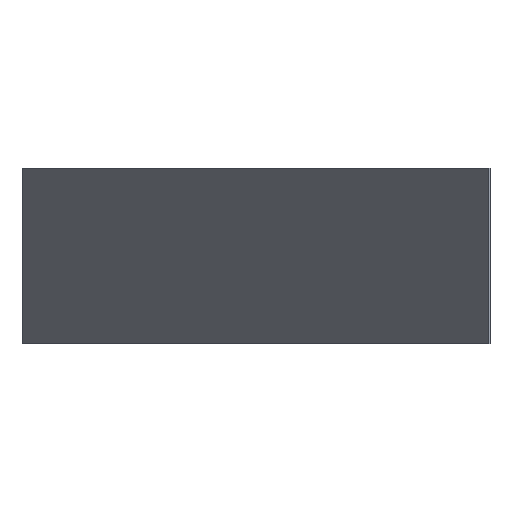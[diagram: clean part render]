
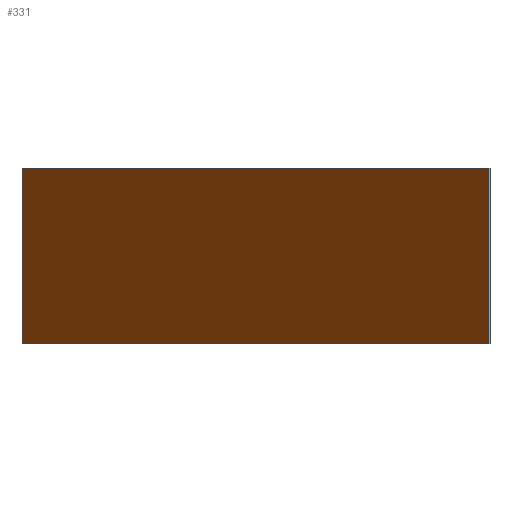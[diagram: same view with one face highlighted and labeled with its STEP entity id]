
A CAD part, front view. The second image highlights one B-rep face of the part: STEP entity #331.
In plain terms, the highlighted planar face has unit normal (-0.831, -0.557, 0).
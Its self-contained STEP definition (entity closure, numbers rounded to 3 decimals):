
#22 = VERTEX_POINT('',#23);
#23 = CARTESIAN_POINT('',(-401.603,-310.583,2.5));
#32 = PLANE('',#33);
#33 = AXIS2_PLACEMENT_3D('',#34,#35,#36);
#34 = CARTESIAN_POINT('',(-401.603,-310.583,2.5));
#35 = DIRECTION('',(0.,0.,1.));
#36 = DIRECTION('',(-0.557,0.831,0.));
#44 = PLANE('',#45);
#45 = AXIS2_PLACEMENT_3D('',#46,#47,#48);
#46 = CARTESIAN_POINT('',(-401.603,-310.583,23.5));
#47 = DIRECTION('',(-0.557,0.831,0.));
#48 = DIRECTION('',(0.,0.,-1.));
#85 = VERTEX_POINT('',#86);
#86 = CARTESIAN_POINT('',(-457.637,-227.035,2.5));
#100 = PLANE('',#101);
#101 = AXIS2_PLACEMENT_3D('',#102,#103,#104);
#102 = CARTESIAN_POINT('',(-457.637,-227.035,2.5));
#103 = DIRECTION('',(0.557,-0.831,0.));
#104 = DIRECTION('',(0.,0.,1.));
#112 = EDGE_CURVE('',#22,#85,#113,.T.);
#113 = SURFACE_CURVE('',#114,(#118,#125),.PCURVE_S1.);
#114 = LINE('',#115,#116);
#115 = CARTESIAN_POINT('',(-401.603,-310.583,2.5));
#116 = VECTOR('',#117,1.);
#117 = DIRECTION('',(-0.557,0.831,0.));
#118 = PCURVE('',#32,#119);
#119 = DEFINITIONAL_REPRESENTATION('',(#120),#124);
#120 = LINE('',#121,#122);
#121 = CARTESIAN_POINT('',(0.,0.));
#122 = VECTOR('',#123,1.);
#123 = DIRECTION('',(1.,0.));
#124 = ( GEOMETRIC_REPRESENTATION_CONTEXT(2) 
PARAMETRIC_REPRESENTATION_CONTEXT() REPRESENTATION_CONTEXT('2D SPACE',''
  ) );
#125 = PCURVE('',#126,#131);
#126 = PLANE('',#127);
#127 = AXIS2_PLACEMENT_3D('',#128,#129,#130);
#128 = CARTESIAN_POINT('',(-429.62,-268.809,13.));
#129 = DIRECTION('',(0.831,0.557,0.));
#130 = DIRECTION('',(-0.557,0.831,0.));
#131 = DEFINITIONAL_REPRESENTATION('',(#132),#136);
#132 = LINE('',#133,#134);
#133 = CARTESIAN_POINT('',(-50.299,-10.5));
#134 = VECTOR('',#135,1.);
#135 = DIRECTION('',(1.,0.));
#136 = ( GEOMETRIC_REPRESENTATION_CONTEXT(2) 
PARAMETRIC_REPRESENTATION_CONTEXT() REPRESENTATION_CONTEXT('2D SPACE',''
  ) );
#166 = VERTEX_POINT('',#167);
#167 = CARTESIAN_POINT('',(-457.637,-227.035,23.5));
#181 = PLANE('',#182);
#182 = AXIS2_PLACEMENT_3D('',#183,#184,#185);
#183 = CARTESIAN_POINT('',(-457.637,-227.035,23.5));
#184 = DIRECTION('',(0.,-0.,-1.));
#185 = DIRECTION('',(0.557,-0.831,0.));
#193 = EDGE_CURVE('',#85,#166,#194,.T.);
#194 = SURFACE_CURVE('',#195,(#199,#206),.PCURVE_S1.);
#195 = LINE('',#196,#197);
#196 = CARTESIAN_POINT('',(-457.637,-227.035,2.5));
#197 = VECTOR('',#198,1.);
#198 = DIRECTION('',(0.,0.,1.));
#199 = PCURVE('',#100,#200);
#200 = DEFINITIONAL_REPRESENTATION('',(#201),#205);
#201 = LINE('',#202,#203);
#202 = CARTESIAN_POINT('',(0.,0.));
#203 = VECTOR('',#204,1.);
#204 = DIRECTION('',(1.,0.));
#205 = ( GEOMETRIC_REPRESENTATION_CONTEXT(2) 
PARAMETRIC_REPRESENTATION_CONTEXT() REPRESENTATION_CONTEXT('2D SPACE',''
  ) );
#206 = PCURVE('',#126,#207);
#207 = DEFINITIONAL_REPRESENTATION('',(#208),#212);
#208 = LINE('',#209,#210);
#209 = CARTESIAN_POINT('',(50.299,-10.5));
#210 = VECTOR('',#211,1.);
#211 = DIRECTION('',(0.,1.));
#212 = ( GEOMETRIC_REPRESENTATION_CONTEXT(2) 
PARAMETRIC_REPRESENTATION_CONTEXT() REPRESENTATION_CONTEXT('2D SPACE',''
  ) );
#242 = VERTEX_POINT('',#243);
#243 = CARTESIAN_POINT('',(-401.603,-310.583,23.5));
#264 = EDGE_CURVE('',#166,#242,#265,.T.);
#265 = SURFACE_CURVE('',#266,(#270,#277),.PCURVE_S1.);
#266 = LINE('',#267,#268);
#267 = CARTESIAN_POINT('',(-457.637,-227.035,23.5));
#268 = VECTOR('',#269,1.);
#269 = DIRECTION('',(0.557,-0.831,0.));
#270 = PCURVE('',#181,#271);
#271 = DEFINITIONAL_REPRESENTATION('',(#272),#276);
#272 = LINE('',#273,#274);
#273 = CARTESIAN_POINT('',(0.,0.));
#274 = VECTOR('',#275,1.);
#275 = DIRECTION('',(1.,0.));
#276 = ( GEOMETRIC_REPRESENTATION_CONTEXT(2) 
PARAMETRIC_REPRESENTATION_CONTEXT() REPRESENTATION_CONTEXT('2D SPACE',''
  ) );
#277 = PCURVE('',#126,#278);
#278 = DEFINITIONAL_REPRESENTATION('',(#279),#283);
#279 = LINE('',#280,#281);
#280 = CARTESIAN_POINT('',(50.299,10.5));
#281 = VECTOR('',#282,1.);
#282 = DIRECTION('',(-1.,0.));
#283 = ( GEOMETRIC_REPRESENTATION_CONTEXT(2) 
PARAMETRIC_REPRESENTATION_CONTEXT() REPRESENTATION_CONTEXT('2D SPACE',''
  ) );
#311 = EDGE_CURVE('',#242,#22,#312,.T.);
#312 = SURFACE_CURVE('',#313,(#317,#324),.PCURVE_S1.);
#313 = LINE('',#314,#315);
#314 = CARTESIAN_POINT('',(-401.603,-310.583,23.5));
#315 = VECTOR('',#316,1.);
#316 = DIRECTION('',(0.,0.,-1.));
#317 = PCURVE('',#44,#318);
#318 = DEFINITIONAL_REPRESENTATION('',(#319),#323);
#319 = LINE('',#320,#321);
#320 = CARTESIAN_POINT('',(0.,-0.));
#321 = VECTOR('',#322,1.);
#322 = DIRECTION('',(1.,0.));
#323 = ( GEOMETRIC_REPRESENTATION_CONTEXT(2) 
PARAMETRIC_REPRESENTATION_CONTEXT() REPRESENTATION_CONTEXT('2D SPACE',''
  ) );
#324 = PCURVE('',#126,#325);
#325 = DEFINITIONAL_REPRESENTATION('',(#326),#330);
#326 = LINE('',#327,#328);
#327 = CARTESIAN_POINT('',(-50.299,10.5));
#328 = VECTOR('',#329,1.);
#329 = DIRECTION('',(0.,-1.));
#330 = ( GEOMETRIC_REPRESENTATION_CONTEXT(2) 
PARAMETRIC_REPRESENTATION_CONTEXT() REPRESENTATION_CONTEXT('2D SPACE',''
  ) );
#331 = ADVANCED_FACE('',(#332),#126,.F.);
#332 = FACE_BOUND('',#333,.F.);
#333 = EDGE_LOOP('',(#334,#335,#336,#337));
#334 = ORIENTED_EDGE('',*,*,#112,.T.);
#335 = ORIENTED_EDGE('',*,*,#193,.T.);
#336 = ORIENTED_EDGE('',*,*,#264,.T.);
#337 = ORIENTED_EDGE('',*,*,#311,.T.);
